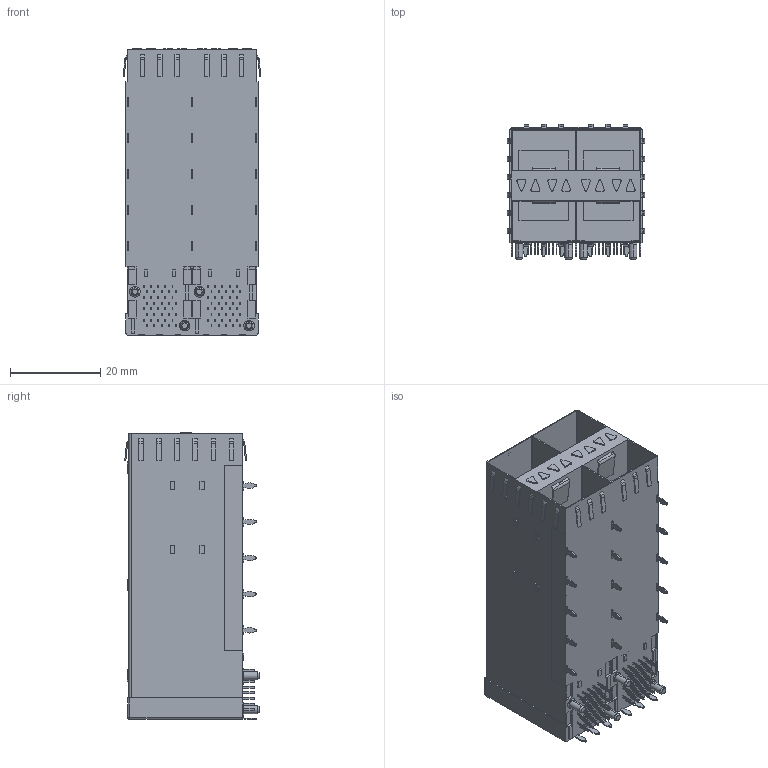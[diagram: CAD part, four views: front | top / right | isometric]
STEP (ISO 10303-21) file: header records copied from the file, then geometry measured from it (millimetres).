
FILE_DESCRIPTION (( 'STEP AP203' ), '1' );
FILE_NAME ('12201_SFP 2X2 无月牙 内外导光柱_3D.STEP', '2024-04-18T07:38:38', ( '' ), ( '' ), 'SwSTEP 2.0', 'SolidWorks 2018', '' );
FILE_SCHEMA (( 'CONFIG_CONTROL_DESIGN' ));
Length unit declared in the file: millimetre
Products named in the file (1): 12201_SFP 2X2 无月牙 内外导光柱_3D
Bounding box: 30.55 x 29.8 x 63.5 mm (x, y, z)
Volume: 23649.8 mm3; surface area: 18589.8 mm2
Topology: 1 solids, 1 shells, 1366 faces, 3622 edges, 2406 vertices
Faces by surface type: plane 1010, cylinder 338, cone 16, sphere 2
Entity records: 42189 total; most frequent: CARTESIAN_POINT 7393, ORIENTED_EDGE 7240, DIRECTION 7046, EDGE_CURVE 3620, LINE 2928, VECTOR 2928, VERTEX_POINT 2406, AXIS2_PLACEMENT_3D 2059
